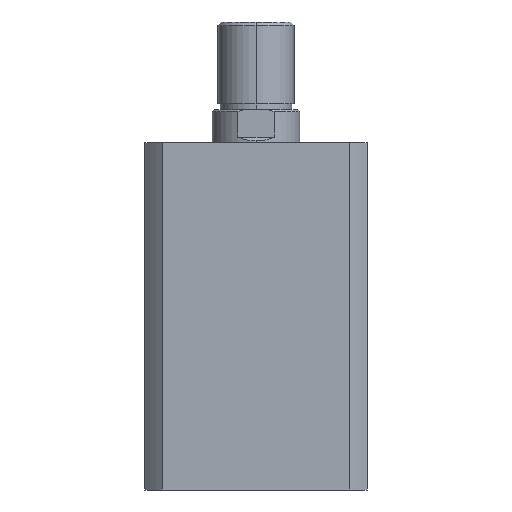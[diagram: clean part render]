
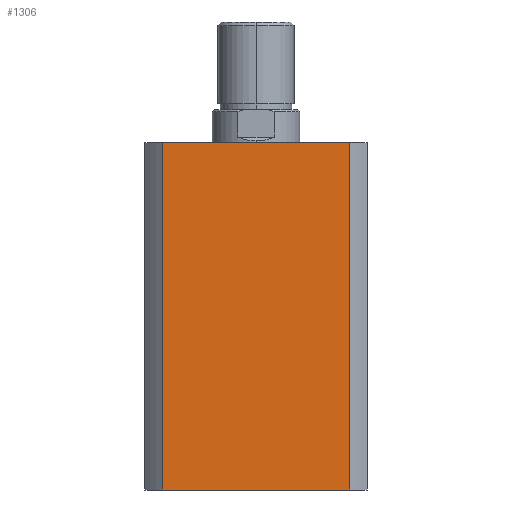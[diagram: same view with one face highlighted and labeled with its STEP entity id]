
A CAD part, left-side view. The second image highlights one B-rep face of the part: STEP entity #1306.
In plain terms, the highlighted planar face has unit normal (-1, 0, 0).
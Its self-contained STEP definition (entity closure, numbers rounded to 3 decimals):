
#124 = EDGE_LOOP ( 'NONE', ( #2876, #2877, #2878, #2879 ) ) ;
#509 = EDGE_CURVE ( 'NONE', #2596, #2597, #3530, .T. ) ;
#511 = EDGE_CURVE ( 'NONE', #5067, #2523, #3534, .T. ) ;
#512 = EDGE_CURVE ( 'NONE', #2596, #5067, #3532, .T. ) ;
#690 = EDGE_CURVE ( 'NONE', #2597, #2523, #3974, .T. ) ;
#848 = CARTESIAN_POINT ( 'NONE',  ( -57., -47.971, 0. ) ) ;
#1306 = ADVANCED_FACE ( 'NONE', ( #4012 ), #1430, .F. ) ;
#1430 = PLANE ( 'NONE',  #2229 ) ;
#1655 = DIRECTION ( 'NONE',  ( 0., -1., 0. ) ) ;
#1657 = CARTESIAN_POINT ( 'NONE',  ( -57., 0., 0. ) ) ;
#2229 = AXIS2_PLACEMENT_3D ( 'NONE', #4462, #4466, #4457 ) ;
#2523 = VERTEX_POINT ( 'NONE', #848 ) ;
#2596 = VERTEX_POINT ( 'NONE', #3877 ) ;
#2597 = VERTEX_POINT ( 'NONE', #3865 ) ;
#2876 = ORIENTED_EDGE ( 'NONE', *, *, #690, .T. ) ;
#2877 = ORIENTED_EDGE ( 'NONE', *, *, #511, .F. ) ;
#2878 = ORIENTED_EDGE ( 'NONE', *, *, #512, .F. ) ;
#2879 = ORIENTED_EDGE ( 'NONE', *, *, #509, .T. ) ;
#3252 = DIRECTION ( 'NONE',  ( 0., -1., 0. ) ) ;
#3257 = CARTESIAN_POINT ( 'NONE',  ( -57., 0., 178. ) ) ;
#3259 = DIRECTION ( 'NONE',  ( 0., 0., -1. ) ) ;
#3260 = CARTESIAN_POINT ( 'NONE',  ( -57., -47.971, 178. ) ) ;
#3261 = CARTESIAN_POINT ( 'NONE',  ( -57., 47.971, 178. ) ) ;
#3264 = DIRECTION ( 'NONE',  ( 0., 0., -1. ) ) ;
#3530 = LINE ( 'NONE', #3261, #3533 ) ;
#3532 = LINE ( 'NONE', #3257, #3538 ) ;
#3533 = VECTOR ( 'NONE', #3259, 1000. ) ;
#3534 = LINE ( 'NONE', #3260, #3536 ) ;
#3536 = VECTOR ( 'NONE', #3264, 1000. ) ;
#3538 = VECTOR ( 'NONE', #3252, 1000. ) ;
#3865 = CARTESIAN_POINT ( 'NONE',  ( -57., 47.971, 0. ) ) ;
#3877 = CARTESIAN_POINT ( 'NONE',  ( -57., 47.971, 178. ) ) ;
#3882 = CARTESIAN_POINT ( 'NONE',  ( -57., -47.971, 178. ) ) ;
#3974 = LINE ( 'NONE', #1657, #3975 ) ;
#3975 = VECTOR ( 'NONE', #1655, 1000. ) ;
#4012 = FACE_OUTER_BOUND ( 'NONE', #124, .T. ) ;
#4457 = DIRECTION ( 'NONE',  ( 0., 0., -1. ) ) ;
#4462 = CARTESIAN_POINT ( 'NONE',  ( -57., 0., 178. ) ) ;
#4466 = DIRECTION ( 'NONE',  ( 1., 0., 0. ) ) ;
#5067 = VERTEX_POINT ( 'NONE', #3882 ) ;
